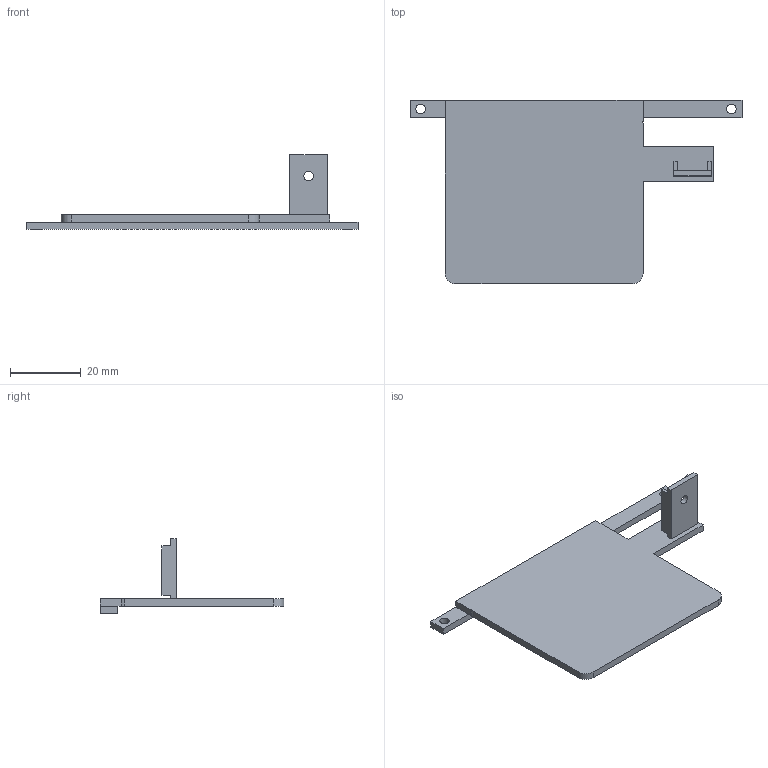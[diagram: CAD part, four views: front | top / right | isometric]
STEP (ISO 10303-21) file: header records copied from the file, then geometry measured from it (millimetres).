
FILE_DESCRIPTION(('Open CASCADE Model'),'2;1');
FILE_NAME('Open CASCADE Shape Model','2026-11-05T02:23:55',('Author'),( 'Open CASCADE'),'Open CASCADE STEP processor 7.8','Open CASCADE 7.8' ,'Unknown');
FILE_SCHEMA(('AUTOMOTIVE_DESIGN { 1 0 10303 214 1 1 1 1 }'));
Length unit declared in the file: millimetre
Products named in the file (1): Open CASCADE STEP translator 7.8 19
Bounding box: 94 x 52 x 21 mm (x, y, z)
Volume: 7464.9 mm3; surface area: 8073.4 mm2
Topology: 1 solids, 1 shells, 40 faces, 109 edges, 72 vertices
Faces by surface type: plane 33, cylinder 7
Full cylindrical faces by diameter (mm): 2.7 x3
Entity records: 2702 total; most frequent: CARTESIAN_POINT 464, DIRECTION 419, LINE 299, VECTOR 299, ORIENTED_EDGE 218, PCURVE 218, DEFINITIONAL_REPRESENTATION 218, EDGE_CURVE 109
